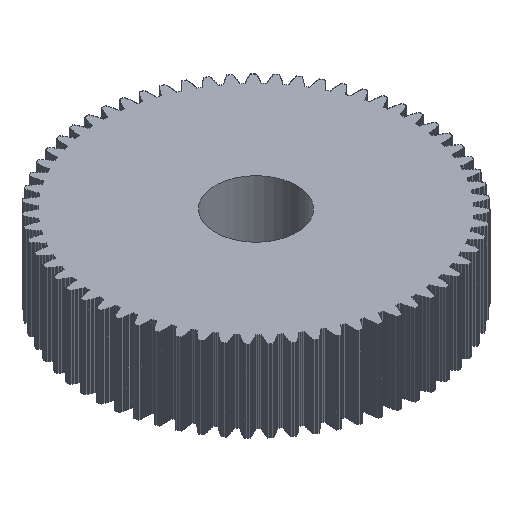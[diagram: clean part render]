
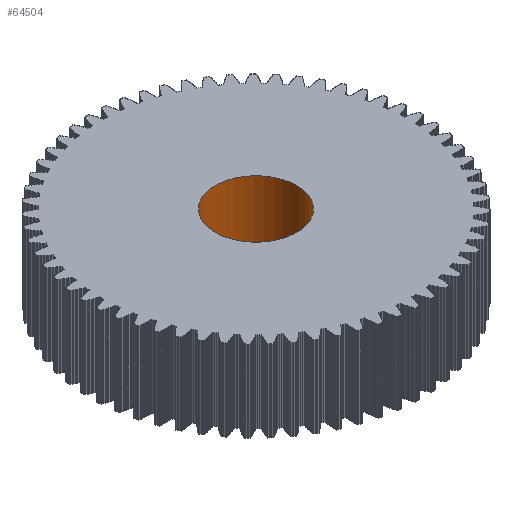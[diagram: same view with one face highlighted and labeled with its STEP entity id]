
A CAD part, isometric view. The second image highlights one B-rep face of the part: STEP entity #64504.
In plain terms, the highlighted cylindrical face has radius 6 mm (diameter 12 mm), a full revolution.
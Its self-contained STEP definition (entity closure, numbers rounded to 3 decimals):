
#15726 = EDGE_CURVE('',#15727,#15727,#15729,.T.);
#15727 = VERTEX_POINT('',#15728);
#15728 = CARTESIAN_POINT('',(24.382,0.299,145.));
#15729 = CIRCLE('',#15730,6.);
#15730 = AXIS2_PLACEMENT_3D('',#15731,#15732,#15733);
#15731 = CARTESIAN_POINT('',(30.375,0.,145.));
#15732 = DIRECTION('',(0.,0.,1.));
#15733 = DIRECTION('',(-0.999,0.05,0.));
#31346 = EDGE_CURVE('',#31347,#31347,#31349,.T.);
#31347 = VERTEX_POINT('',#31348);
#31348 = CARTESIAN_POINT('',(24.382,0.299,157.));
#31349 = CIRCLE('',#31350,6.);
#31350 = AXIS2_PLACEMENT_3D('',#31351,#31352,#31353);
#31351 = CARTESIAN_POINT('',(30.375,0.,157.));
#31352 = DIRECTION('',(0.,0.,1.));
#31353 = DIRECTION('',(-0.999,0.05,0.));
#64504 = ADVANCED_FACE('',(#64505),#64516,.F.);
#64505 = FACE_BOUND('',#64506,.F.);
#64506 = EDGE_LOOP('',(#64507,#64508,#64514,#64515));
#64507 = ORIENTED_EDGE('',*,*,#31346,.F.);
#64508 = ORIENTED_EDGE('',*,*,#64509,.F.);
#64509 = EDGE_CURVE('',#15727,#31347,#64510,.T.);
#64510 = LINE('',#64511,#64512);
#64511 = CARTESIAN_POINT('',(24.382,0.299,145.));
#64512 = VECTOR('',#64513,1.);
#64513 = DIRECTION('',(0.,0.,1.));
#64514 = ORIENTED_EDGE('',*,*,#15726,.T.);
#64515 = ORIENTED_EDGE('',*,*,#64509,.T.);
#64516 = CYLINDRICAL_SURFACE('',#64517,6.);
#64517 = AXIS2_PLACEMENT_3D('',#64518,#64519,#64520);
#64518 = CARTESIAN_POINT('',(30.375,0.,145.));
#64519 = DIRECTION('',(0.,0.,1.));
#64520 = DIRECTION('',(-0.999,0.05,0.));
